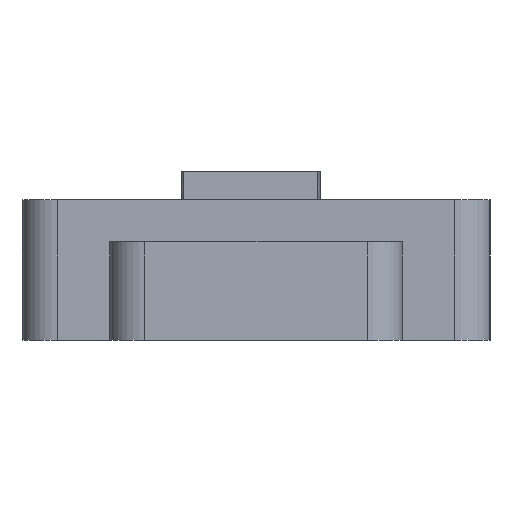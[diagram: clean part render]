
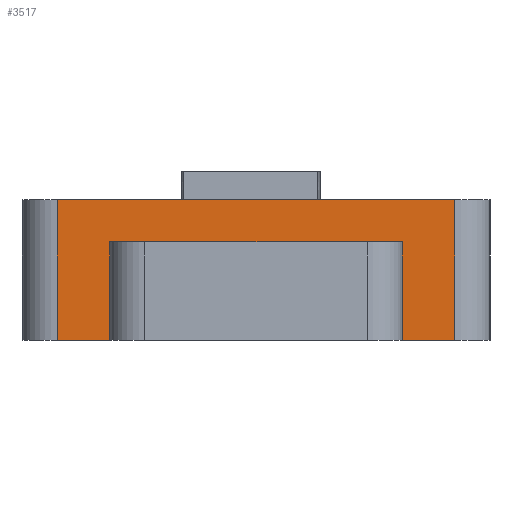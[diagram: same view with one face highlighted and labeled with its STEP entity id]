
A CAD part, left-side view. The second image highlights one B-rep face of the part: STEP entity #3517.
In plain terms, the highlighted planar face has unit normal (-1, 0, 0).
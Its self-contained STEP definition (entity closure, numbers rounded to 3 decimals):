
#62 = PLANE('',#63);
#63 = AXIS2_PLACEMENT_3D('',#64,#65,#66);
#64 = CARTESIAN_POINT('',(0.,0.,0.));
#65 = DIRECTION('',(0.,0.,1.));
#66 = DIRECTION('',(1.,0.,-0.));
#90 = CYLINDRICAL_SURFACE('',#91,0.6);
#91 = AXIS2_PLACEMENT_3D('',#92,#93,#94);
#92 = CARTESIAN_POINT('',(-14.25,-3.4,0.));
#93 = DIRECTION('',(0.,0.,1.));
#94 = DIRECTION('',(0.,-1.,0.));
#118 = PLANE('',#119);
#119 = AXIS2_PLACEMENT_3D('',#120,#121,#122);
#120 = CARTESIAN_POINT('',(0.,0.,2.4));
#121 = DIRECTION('',(0.,0.,1.));
#122 = DIRECTION('',(1.,0.,-0.));
#160 = VERTEX_POINT('',#161);
#161 = CARTESIAN_POINT('',(-14.85,-3.4,0.));
#463 = VERTEX_POINT('',#464);
#464 = CARTESIAN_POINT('',(-14.85,3.4,0.));
#479 = CYLINDRICAL_SURFACE('',#480,0.6);
#480 = AXIS2_PLACEMENT_3D('',#481,#482,#483);
#481 = CARTESIAN_POINT('',(-14.25,3.4,0.));
#482 = DIRECTION('',(0.,0.,1.));
#483 = DIRECTION('',(-0.,1.,0.));
#491 = EDGE_CURVE('',#463,#492,#494,.T.);
#492 = VERTEX_POINT('',#493);
#493 = CARTESIAN_POINT('',(-14.85,2.5,0.));
#494 = SURFACE_CURVE('',#495,(#499,#506),.PCURVE_S1.);
#495 = LINE('',#496,#497);
#496 = CARTESIAN_POINT('',(-14.85,4.,0.));
#497 = VECTOR('',#498,1.);
#498 = DIRECTION('',(0.,-1.,0.));
#499 = PCURVE('',#62,#500);
#500 = DEFINITIONAL_REPRESENTATION('',(#501),#505);
#501 = LINE('',#502,#503);
#502 = CARTESIAN_POINT('',(-14.85,4.));
#503 = VECTOR('',#504,1.);
#504 = DIRECTION('',(0.,-1.));
#505 = ( GEOMETRIC_REPRESENTATION_CONTEXT(2) 
PARAMETRIC_REPRESENTATION_CONTEXT() REPRESENTATION_CONTEXT('2D SPACE',''
  ) );
#506 = PCURVE('',#507,#512);
#507 = PLANE('',#508);
#508 = AXIS2_PLACEMENT_3D('',#509,#510,#511);
#509 = CARTESIAN_POINT('',(-14.85,4.,0.));
#510 = DIRECTION('',(1.,0.,-0.));
#511 = DIRECTION('',(0.,-1.,0.));
#512 = DEFINITIONAL_REPRESENTATION('',(#513),#517);
#513 = LINE('',#514,#515);
#514 = CARTESIAN_POINT('',(0.,0.));
#515 = VECTOR('',#516,1.);
#516 = DIRECTION('',(1.,0.));
#517 = ( GEOMETRIC_REPRESENTATION_CONTEXT(2) 
PARAMETRIC_REPRESENTATION_CONTEXT() REPRESENTATION_CONTEXT('2D SPACE',''
  ) );
#535 = PLANE('',#536);
#536 = AXIS2_PLACEMENT_3D('',#537,#538,#539);
#537 = CARTESIAN_POINT('',(-13.85,2.5,0.));
#538 = DIRECTION('',(0.,-1.,0.));
#539 = DIRECTION('',(-1.,0.,0.));
#638 = VERTEX_POINT('',#639);
#639 = CARTESIAN_POINT('',(-14.85,-2.5,0.));
#653 = PLANE('',#654);
#654 = AXIS2_PLACEMENT_3D('',#655,#656,#657);
#655 = CARTESIAN_POINT('',(-17.25,-2.5,0.));
#656 = DIRECTION('',(0.,1.,0.));
#657 = DIRECTION('',(1.,0.,0.));
#665 = EDGE_CURVE('',#638,#160,#666,.T.);
#666 = SURFACE_CURVE('',#667,(#671,#678),.PCURVE_S1.);
#667 = LINE('',#668,#669);
#668 = CARTESIAN_POINT('',(-14.85,4.,0.));
#669 = VECTOR('',#670,1.);
#670 = DIRECTION('',(0.,-1.,0.));
#671 = PCURVE('',#62,#672);
#672 = DEFINITIONAL_REPRESENTATION('',(#673),#677);
#673 = LINE('',#674,#675);
#674 = CARTESIAN_POINT('',(-14.85,4.));
#675 = VECTOR('',#676,1.);
#676 = DIRECTION('',(0.,-1.));
#677 = ( GEOMETRIC_REPRESENTATION_CONTEXT(2) 
PARAMETRIC_REPRESENTATION_CONTEXT() REPRESENTATION_CONTEXT('2D SPACE',''
  ) );
#678 = PCURVE('',#507,#679);
#679 = DEFINITIONAL_REPRESENTATION('',(#680),#684);
#680 = LINE('',#681,#682);
#681 = CARTESIAN_POINT('',(0.,0.));
#682 = VECTOR('',#683,1.);
#683 = DIRECTION('',(1.,0.));
#684 = ( GEOMETRIC_REPRESENTATION_CONTEXT(2) 
PARAMETRIC_REPRESENTATION_CONTEXT() REPRESENTATION_CONTEXT('2D SPACE',''
  ) );
#690 = EDGE_CURVE('',#160,#691,#693,.T.);
#691 = VERTEX_POINT('',#692);
#692 = CARTESIAN_POINT('',(-14.85,-3.4,2.4));
#693 = SURFACE_CURVE('',#694,(#698,#705),.PCURVE_S1.);
#694 = LINE('',#695,#696);
#695 = CARTESIAN_POINT('',(-14.85,-3.4,0.));
#696 = VECTOR('',#697,1.);
#697 = DIRECTION('',(0.,0.,1.));
#698 = PCURVE('',#90,#699);
#699 = DEFINITIONAL_REPRESENTATION('',(#700),#704);
#700 = LINE('',#701,#702);
#701 = CARTESIAN_POINT('',(-1.571,0.));
#702 = VECTOR('',#703,1.);
#703 = DIRECTION('',(-0.,1.));
#704 = ( GEOMETRIC_REPRESENTATION_CONTEXT(2) 
PARAMETRIC_REPRESENTATION_CONTEXT() REPRESENTATION_CONTEXT('2D SPACE',''
  ) );
#705 = PCURVE('',#507,#706);
#706 = DEFINITIONAL_REPRESENTATION('',(#707),#711);
#707 = LINE('',#708,#709);
#708 = CARTESIAN_POINT('',(7.4,0.));
#709 = VECTOR('',#710,1.);
#710 = DIRECTION('',(0.,-1.));
#711 = ( GEOMETRIC_REPRESENTATION_CONTEXT(2) 
PARAMETRIC_REPRESENTATION_CONTEXT() REPRESENTATION_CONTEXT('2D SPACE',''
  ) );
#866 = VERTEX_POINT('',#867);
#867 = CARTESIAN_POINT('',(-14.85,3.4,2.4));
#889 = EDGE_CURVE('',#866,#691,#890,.T.);
#890 = SURFACE_CURVE('',#891,(#895,#902),.PCURVE_S1.);
#891 = LINE('',#892,#893);
#892 = CARTESIAN_POINT('',(-14.85,4.,2.4));
#893 = VECTOR('',#894,1.);
#894 = DIRECTION('',(0.,-1.,0.));
#895 = PCURVE('',#118,#896);
#896 = DEFINITIONAL_REPRESENTATION('',(#897),#901);
#897 = LINE('',#898,#899);
#898 = CARTESIAN_POINT('',(-14.85,4.));
#899 = VECTOR('',#900,1.);
#900 = DIRECTION('',(0.,-1.));
#901 = ( GEOMETRIC_REPRESENTATION_CONTEXT(2) 
PARAMETRIC_REPRESENTATION_CONTEXT() REPRESENTATION_CONTEXT('2D SPACE',''
  ) );
#902 = PCURVE('',#507,#903);
#903 = DEFINITIONAL_REPRESENTATION('',(#904),#908);
#904 = LINE('',#905,#906);
#905 = CARTESIAN_POINT('',(0.,-2.4));
#906 = VECTOR('',#907,1.);
#907 = DIRECTION('',(1.,0.));
#908 = ( GEOMETRIC_REPRESENTATION_CONTEXT(2) 
PARAMETRIC_REPRESENTATION_CONTEXT() REPRESENTATION_CONTEXT('2D SPACE',''
  ) );
#3517 = ADVANCED_FACE('',(#3518),#507,.F.);
#3518 = FACE_BOUND('',#3519,.F.);
#3519 = EDGE_LOOP('',(#3520,#3521,#3542,#3543,#3544,#3545,#3566,#3592));
#3520 = ORIENTED_EDGE('',*,*,#491,.F.);
#3521 = ORIENTED_EDGE('',*,*,#3522,.T.);
#3522 = EDGE_CURVE('',#463,#866,#3523,.T.);
#3523 = SURFACE_CURVE('',#3524,(#3528,#3535),.PCURVE_S1.);
#3524 = LINE('',#3525,#3526);
#3525 = CARTESIAN_POINT('',(-14.85,3.4,0.));
#3526 = VECTOR('',#3527,1.);
#3527 = DIRECTION('',(0.,0.,1.));
#3528 = PCURVE('',#507,#3529);
#3529 = DEFINITIONAL_REPRESENTATION('',(#3530),#3534);
#3530 = LINE('',#3531,#3532);
#3531 = CARTESIAN_POINT('',(0.6,0.));
#3532 = VECTOR('',#3533,1.);
#3533 = DIRECTION('',(0.,-1.));
#3534 = ( GEOMETRIC_REPRESENTATION_CONTEXT(2) 
PARAMETRIC_REPRESENTATION_CONTEXT() REPRESENTATION_CONTEXT('2D SPACE',''
  ) );
#3535 = PCURVE('',#479,#3536);
#3536 = DEFINITIONAL_REPRESENTATION('',(#3537),#3541);
#3537 = LINE('',#3538,#3539);
#3538 = CARTESIAN_POINT('',(1.571,0.));
#3539 = VECTOR('',#3540,1.);
#3540 = DIRECTION('',(0.,1.));
#3541 = ( GEOMETRIC_REPRESENTATION_CONTEXT(2) 
PARAMETRIC_REPRESENTATION_CONTEXT() REPRESENTATION_CONTEXT('2D SPACE',''
  ) );
#3542 = ORIENTED_EDGE('',*,*,#889,.T.);
#3543 = ORIENTED_EDGE('',*,*,#690,.F.);
#3544 = ORIENTED_EDGE('',*,*,#665,.F.);
#3545 = ORIENTED_EDGE('',*,*,#3546,.T.);
#3546 = EDGE_CURVE('',#638,#3547,#3549,.T.);
#3547 = VERTEX_POINT('',#3548);
#3548 = CARTESIAN_POINT('',(-14.85,-2.5,1.68));
#3549 = SURFACE_CURVE('',#3550,(#3554,#3560),.PCURVE_S1.);
#3550 = LINE('',#3551,#3552);
#3551 = CARTESIAN_POINT('',(-14.85,-2.5,0.));
#3552 = VECTOR('',#3553,1.);
#3553 = DIRECTION('',(0.,-0.,1.));
#3554 = PCURVE('',#507,#3555);
#3555 = DEFINITIONAL_REPRESENTATION('',(#3556),#3559);
#3556 = B_SPLINE_CURVE_WITH_KNOTS('',1,(#3557,#3558),.UNSPECIFIED.,.F.,
  .F.,(2,2),(0.,1.68),.PIECEWISE_BEZIER_KNOTS.);
#3557 = CARTESIAN_POINT('',(6.5,0.));
#3558 = CARTESIAN_POINT('',(6.5,-1.68));
#3559 = ( GEOMETRIC_REPRESENTATION_CONTEXT(2) 
PARAMETRIC_REPRESENTATION_CONTEXT() REPRESENTATION_CONTEXT('2D SPACE',''
  ) );
#3560 = PCURVE('',#653,#3561);
#3561 = DEFINITIONAL_REPRESENTATION('',(#3562),#3565);
#3562 = B_SPLINE_CURVE_WITH_KNOTS('',1,(#3563,#3564),.UNSPECIFIED.,.F.,
  .F.,(2,2),(0.,1.68),.PIECEWISE_BEZIER_KNOTS.);
#3563 = CARTESIAN_POINT('',(2.4,0.));
#3564 = CARTESIAN_POINT('',(2.4,-1.68));
#3565 = ( GEOMETRIC_REPRESENTATION_CONTEXT(2) 
PARAMETRIC_REPRESENTATION_CONTEXT() REPRESENTATION_CONTEXT('2D SPACE',''
  ) );
#3566 = ORIENTED_EDGE('',*,*,#3567,.F.);
#3567 = EDGE_CURVE('',#3568,#3547,#3570,.T.);
#3568 = VERTEX_POINT('',#3569);
#3569 = CARTESIAN_POINT('',(-14.85,2.5,1.68));
#3570 = SURFACE_CURVE('',#3571,(#3575,#3581),.PCURVE_S1.);
#3571 = LINE('',#3572,#3573);
#3572 = CARTESIAN_POINT('',(-14.85,2.,1.68));
#3573 = VECTOR('',#3574,1.);
#3574 = DIRECTION('',(0.,-1.,0.));
#3575 = PCURVE('',#507,#3576);
#3576 = DEFINITIONAL_REPRESENTATION('',(#3577),#3580);
#3577 = B_SPLINE_CURVE_WITH_KNOTS('',1,(#3578,#3579),.UNSPECIFIED.,.F.,
  .F.,(2,2),(-0.5,4.5),.PIECEWISE_BEZIER_KNOTS.);
#3578 = CARTESIAN_POINT('',(1.5,-1.68));
#3579 = CARTESIAN_POINT('',(6.5,-1.68));
#3580 = ( GEOMETRIC_REPRESENTATION_CONTEXT(2) 
PARAMETRIC_REPRESENTATION_CONTEXT() REPRESENTATION_CONTEXT('2D SPACE',''
  ) );
#3581 = PCURVE('',#3582,#3587);
#3582 = PLANE('',#3583);
#3583 = AXIS2_PLACEMENT_3D('',#3584,#3585,#3586);
#3584 = CARTESIAN_POINT('',(-15.55,0.,1.68));
#3585 = DIRECTION('',(0.,0.,1.));
#3586 = DIRECTION('',(1.,0.,-0.));
#3587 = DEFINITIONAL_REPRESENTATION('',(#3588),#3591);
#3588 = B_SPLINE_CURVE_WITH_KNOTS('',1,(#3589,#3590),.UNSPECIFIED.,.F.,
  .F.,(2,2),(-0.5,4.5),.PIECEWISE_BEZIER_KNOTS.);
#3589 = CARTESIAN_POINT('',(0.7,2.5));
#3590 = CARTESIAN_POINT('',(0.7,-2.5));
#3591 = ( GEOMETRIC_REPRESENTATION_CONTEXT(2) 
PARAMETRIC_REPRESENTATION_CONTEXT() REPRESENTATION_CONTEXT('2D SPACE',''
  ) );
#3592 = ORIENTED_EDGE('',*,*,#3593,.T.);
#3593 = EDGE_CURVE('',#3568,#492,#3594,.T.);
#3594 = SURFACE_CURVE('',#3595,(#3599,#3605),.PCURVE_S1.);
#3595 = LINE('',#3596,#3597);
#3596 = CARTESIAN_POINT('',(-14.85,2.5,0.));
#3597 = VECTOR('',#3598,1.);
#3598 = DIRECTION('',(0.,-0.,-1.));
#3599 = PCURVE('',#507,#3600);
#3600 = DEFINITIONAL_REPRESENTATION('',(#3601),#3604);
#3601 = B_SPLINE_CURVE_WITH_KNOTS('',1,(#3602,#3603),.UNSPECIFIED.,.F.,
  .F.,(2,2),(-1.68,0.),.PIECEWISE_BEZIER_KNOTS.);
#3602 = CARTESIAN_POINT('',(1.5,-1.68));
#3603 = CARTESIAN_POINT('',(1.5,0.));
#3604 = ( GEOMETRIC_REPRESENTATION_CONTEXT(2) 
PARAMETRIC_REPRESENTATION_CONTEXT() REPRESENTATION_CONTEXT('2D SPACE',''
  ) );
#3605 = PCURVE('',#535,#3606);
#3606 = DEFINITIONAL_REPRESENTATION('',(#3607),#3610);
#3607 = B_SPLINE_CURVE_WITH_KNOTS('',1,(#3608,#3609),.UNSPECIFIED.,.F.,
  .F.,(2,2),(-1.68,0.),.PIECEWISE_BEZIER_KNOTS.);
#3608 = CARTESIAN_POINT('',(1.,-1.68));
#3609 = CARTESIAN_POINT('',(1.,0.));
#3610 = ( GEOMETRIC_REPRESENTATION_CONTEXT(2) 
PARAMETRIC_REPRESENTATION_CONTEXT() REPRESENTATION_CONTEXT('2D SPACE',''
  ) );
